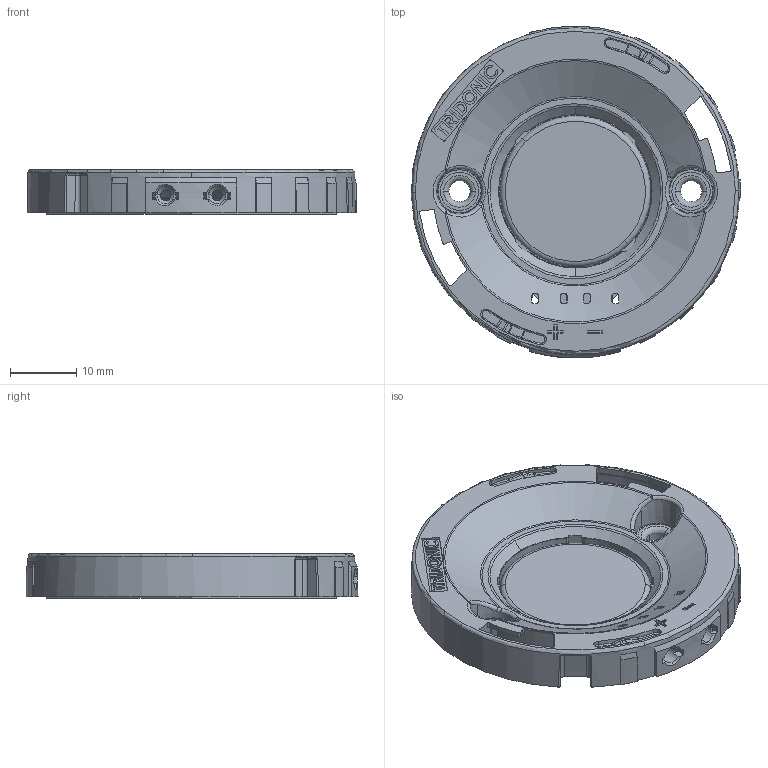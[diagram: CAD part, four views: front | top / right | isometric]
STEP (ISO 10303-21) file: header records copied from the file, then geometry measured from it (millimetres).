
FILE_DESCRIPTION((''),'2;1');
FILE_NAME('16208815_SLE-G7-LES21-HOUSING','2018-11-20T13:21:34',('bernhard.fink'),(''),'CREO PARAMETRIC BY PTC INC, 2017380','CREO PARAMETRIC BY PTC INC, 2017380','');
FILE_SCHEMA(('AUTOMOTIVE_DESIGN { 1 0 10303 214 1 1 1 1 }'));
Products named in the file (3): 16208815_SLE-G7-LES21-HOUSING; 16208814_SLE-G7-LES21-MODUL
Assembly tree (2 placements, depth 2):
  16208815_SLE-G7-LES21-HOUSING
    16208815_SLE-G7-LES21-HOUSING
    16208814_SLE-G7-LES21-MODUL
Bounding box: 49.79 x 50.2 x 6.8 mm (x, y, z)
Volume: 4146.3 mm3; surface area: 9145.4 mm2
Topology: 2 solids, 2 shells, 1768 faces, 4660 edges, 2816 vertices
Faces by surface type: cylinder 565, plane 395, bspline 318, torus 224, cone 140, sphere 109, extrusion 17
Entity records: 117191 total; most frequent: CARTESIAN_POINT 50185, ORIENTED_EDGE 9112, DIRECTION 7464, PRESENTATION_STYLE_ASSIGNMENT 6321, STYLED_ITEM 4575, CURVE_STYLE 4573, EDGE_CURVE 4556, AXIS2_PLACEMENT_3D 2988
